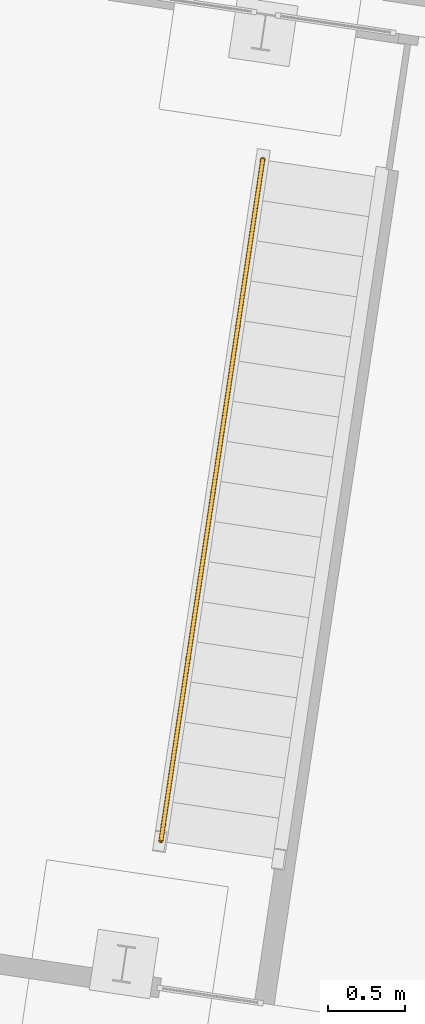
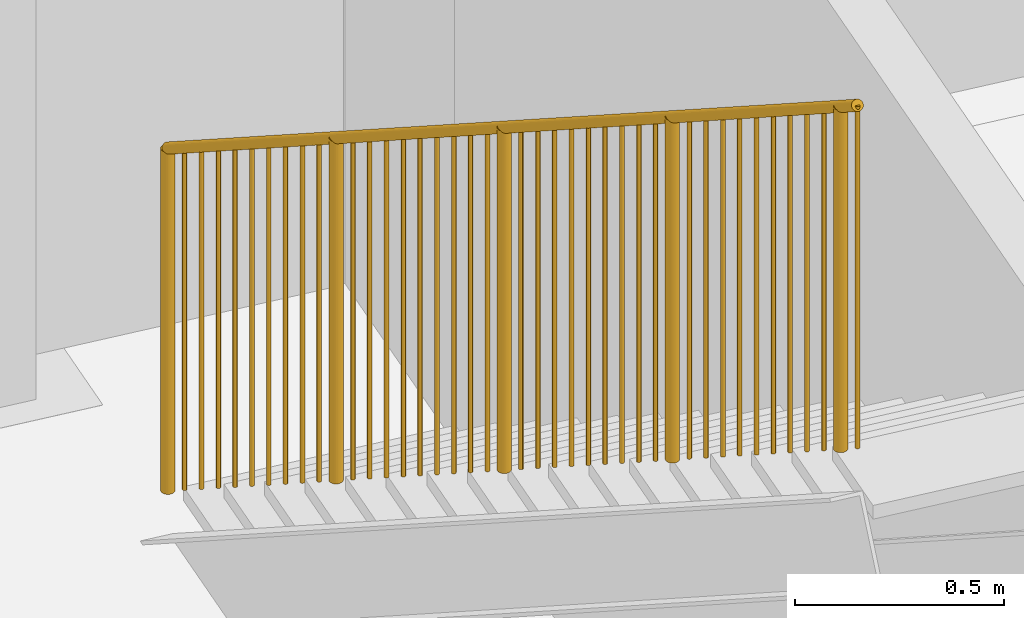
# One storey, part 135 of 142: 1 railing, 1 element without a shape of its own.
"""IFC4 building model written with IfcOpenShell, lengths in metres."""

from ifc_helpers import new_model, si_unit, direction, frame, origin_with_axes, place, context, subcontext, project, spatial, circle, extrude, material, element, aggregate, save


model = new_model("IFC4")

# Units and contexts
model_context = context("Model", 3, precision=1e-05, world=origin_with_axes(), true_north=direction((0.0, 1.0)))
body_context = subcontext(model_context, "Body", "Model", "MODEL_VIEW")
ifc_project = project(units=[si_unit("VOLUMEUNIT", "CUBIC_METRE"), si_unit("LENGTHUNIT", "METRE"), si_unit("AREAUNIT", "SQUARE_METRE")], contexts=[model_context])

# Site, building, storey
site_placement = place(None, origin_with_axes())
site = spatial("IfcSite", under=ifc_project, at=site_placement, Name="Lares · Rua das Mercês · artigo 4771")
building_placement = place(site_placement, frame((12.0, 10.2, 13.9), z_axis=(0.0, 0.0, 1.0), x_axis=(0.989015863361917, -0.147809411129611, 0.0)))
building = spatial("IfcBuilding", under=site, at=building_placement, Name="Casa Sobreposta")
storey_placement = place(building_placement, origin_with_axes())
storey = spatial("IfcBuildingStorey", under=building, at=storey_placement, Name="00 · Habitação e estacionamento", Elevation=13.9)

# Stair, railing
stair_placement = place(storey_placement, origin_with_axes())
stair = element("IfcStair", 1, at=stair_placement, inside=storey, Name="Escada garagem", PredefinedType="STRAIGHT_RUN_STAIR")
ifc_material = material(Name="Aço pintado / Stahl lackiert", Category="steel")
railing_placement = place(stair_placement, origin_with_axes())
railing = element("IfcRailing", 2, at=railing_placement, material=ifc_material, Name="Corrimão garagem", PredefinedType="GUARDRAIL", context=body_context, shape_type="SweptSolid", body=[
    extrude(circle(Radius=0.015), frame((24.12, 5.4525, 1.18), z_axis=(0.0, -0.827216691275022, 0.561883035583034), x_axis=(-1.0, 0.0, 0.0)), (0.0, 0.0, 1.0), 5.44597328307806),
    extrude(circle(Radius=0.0175), frame((24.12, 5.4525, 0.18), z_axis=(0.0, 0.0, 1.0), x_axis=(1.0, 0.0, 0.0)), (0.0, 0.0, 1.0), 1.0),
    extrude(circle(Radius=0.006), frame((24.12, 5.34262195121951, 0.254634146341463), z_axis=(0.0, 0.0, 1.0), x_axis=(1.0, 0.0, 0.0)), (0.0, 0.0, 1.0), 1.0),
    extrude(circle(Radius=0.006), frame((24.12, 5.23274390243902, 0.329268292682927), z_axis=(0.0, 0.0, 1.0), x_axis=(1.0, 0.0, 0.0)), (0.0, 0.0, 1.0), 1.0),
    extrude(circle(Radius=0.006), frame((24.12, 5.12286585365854, 0.40390243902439), z_axis=(0.0, 0.0, 1.0), x_axis=(1.0, 0.0, 0.0)), (0.0, 0.0, 1.0), 1.0),
    extrude(circle(Radius=0.006), frame((24.12, 5.01298780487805, 0.478536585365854), z_axis=(0.0, 0.0, 1.0), x_axis=(1.0, 0.0, 0.0)), (0.0, 0.0, 1.0), 1.0),
    extrude(circle(Radius=0.006), frame((24.12, 4.90310975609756, 0.553170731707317), z_axis=(0.0, 0.0, 1.0), x_axis=(1.0, 0.0, 0.0)), (0.0, 0.0, 1.0), 1.0),
    extrude(circle(Radius=0.006), frame((24.12, 4.79323170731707, 0.62780487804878), z_axis=(0.0, 0.0, 1.0), x_axis=(1.0, 0.0, 0.0)), (0.0, 0.0, 1.0), 1.0),
    extrude(circle(Radius=0.006), frame((24.12, 4.68335365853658, 0.702439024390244), z_axis=(0.0, 0.0, 1.0), x_axis=(1.0, 0.0, 0.0)), (0.0, 0.0, 1.0), 1.0),
    extrude(circle(Radius=0.006), frame((24.12, 4.5734756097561, 0.777073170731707), z_axis=(0.0, 0.0, 1.0), x_axis=(1.0, 0.0, 0.0)), (0.0, 0.0, 1.0), 1.0),
    extrude(circle(Radius=0.006), frame((24.12, 4.46359756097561, 0.851707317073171), z_axis=(0.0, 0.0, 1.0), x_axis=(1.0, 0.0, 0.0)), (0.0, 0.0, 1.0), 1.0),
    extrude(circle(Radius=0.0175), frame((24.12, 4.35371951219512, 0.926341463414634), z_axis=(0.0, 0.0, 1.0), x_axis=(1.0, 0.0, 0.0)), (0.0, 0.0, 1.0), 1.0),
    extrude(circle(Radius=0.006), frame((24.12, 4.24384146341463, 1.0009756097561), z_axis=(0.0, 0.0, 1.0), x_axis=(1.0, 0.0, 0.0)), (0.0, 0.0, 1.0), 1.0),
    extrude(circle(Radius=0.006), frame((24.12, 4.13396341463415, 1.07560975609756), z_axis=(0.0, 0.0, 1.0), x_axis=(1.0, 0.0, 0.0)), (0.0, 0.0, 1.0), 1.0),
    extrude(circle(Radius=0.006), frame((24.12, 4.02408536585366, 1.15024390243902), z_axis=(0.0, 0.0, 1.0), x_axis=(1.0, 0.0, 0.0)), (0.0, 0.0, 1.0), 1.0),
    extrude(circle(Radius=0.006), frame((24.12, 3.91420731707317, 1.22487804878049), z_axis=(0.0, 0.0, 1.0), x_axis=(1.0, 0.0, 0.0)), (0.0, 0.0, 1.0), 1.0),
    extrude(circle(Radius=0.006), frame((24.12, 3.80432926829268, 1.29951219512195), z_axis=(0.0, 0.0, 1.0), x_axis=(1.0, 0.0, 0.0)), (0.0, 0.0, 1.0), 1.0),
    extrude(circle(Radius=0.006), frame((24.12, 3.6944512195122, 1.37414634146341), z_axis=(0.0, 0.0, 1.0), x_axis=(1.0, 0.0, 0.0)), (0.0, 0.0, 1.0), 1.0),
    extrude(circle(Radius=0.006), frame((24.12, 3.58457317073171, 1.44878048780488), z_axis=(0.0, 0.0, 1.0), x_axis=(1.0, 0.0, 0.0)), (0.0, 0.0, 1.0), 1.0),
    extrude(circle(Radius=0.006), frame((24.12, 3.47469512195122, 1.52341463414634), z_axis=(0.0, 0.0, 1.0), x_axis=(1.0, 0.0, 0.0)), (0.0, 0.0, 1.0), 1.0),
    extrude(circle(Radius=0.006), frame((24.12, 3.36481707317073, 1.5980487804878), z_axis=(0.0, 0.0, 1.0), x_axis=(1.0, 0.0, 0.0)), (0.0, 0.0, 1.0), 1.0),
    extrude(circle(Radius=0.0175), frame((24.12, 3.25493902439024, 1.67268292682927), z_axis=(0.0, 0.0, 1.0), x_axis=(1.0, 0.0, 0.0)), (0.0, 0.0, 1.0), 1.0),
    extrude(circle(Radius=0.006), frame((24.12, 3.14506097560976, 1.74731707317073), z_axis=(0.0, 0.0, 1.0), x_axis=(1.0, 0.0, 0.0)), (0.0, 0.0, 1.0), 1.0),
    extrude(circle(Radius=0.006), frame((24.12, 3.03518292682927, 1.8219512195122), z_axis=(0.0, 0.0, 1.0), x_axis=(1.0, 0.0, 0.0)), (0.0, 0.0, 1.0), 1.0),
    extrude(circle(Radius=0.006), frame((24.12, 2.92530487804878, 1.89658536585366), z_axis=(0.0, 0.0, 1.0), x_axis=(1.0, 0.0, 0.0)), (0.0, 0.0, 1.0), 1.0),
    extrude(circle(Radius=0.006), frame((24.12, 2.81542682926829, 1.97121951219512), z_axis=(0.0, 0.0, 1.0), x_axis=(1.0, 0.0, 0.0)), (0.0, 0.0, 1.0), 1.0),
    extrude(circle(Radius=0.006), frame((24.12, 2.7055487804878, 2.04585365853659), z_axis=(0.0, 0.0, 1.0), x_axis=(1.0, 0.0, 0.0)), (0.0, 0.0, 1.0), 1.0),
    extrude(circle(Radius=0.006), frame((24.12, 2.59567073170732, 2.12048780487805), z_axis=(0.0, 0.0, 1.0), x_axis=(1.0, 0.0, 0.0)), (0.0, 0.0, 1.0), 1.0),
    extrude(circle(Radius=0.006), frame((24.12, 2.48579268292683, 2.19512195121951), z_axis=(0.0, 0.0, 1.0), x_axis=(1.0, 0.0, 0.0)), (0.0, 0.0, 1.0), 1.0),
    extrude(circle(Radius=0.006), frame((24.12, 2.37591463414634, 2.26975609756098), z_axis=(0.0, 0.0, 1.0), x_axis=(1.0, 0.0, 0.0)), (0.0, 0.0, 1.0), 1.0),
    extrude(circle(Radius=0.006), frame((24.12, 2.26603658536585, 2.34439024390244), z_axis=(0.0, 0.0, 1.0), x_axis=(1.0, 0.0, 0.0)), (0.0, 0.0, 1.0), 1.0),
    extrude(circle(Radius=0.0175), frame((24.12, 2.15615853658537, 2.4190243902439), z_axis=(0.0, 0.0, 1.0), x_axis=(1.0, 0.0, 0.0)), (0.0, 0.0, 1.0), 1.0),
    extrude(circle(Radius=0.006), frame((24.12, 2.04628048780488, 2.49365853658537), z_axis=(0.0, 0.0, 1.0), x_axis=(1.0, 0.0, 0.0)), (0.0, 0.0, 1.0), 1.0),
    extrude(circle(Radius=0.006), frame((24.12, 1.93640243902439, 2.56829268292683), z_axis=(0.0, 0.0, 1.0), x_axis=(1.0, 0.0, 0.0)), (0.0, 0.0, 1.0), 1.0),
    extrude(circle(Radius=0.006), frame((24.12, 1.8265243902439, 2.64292682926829), z_axis=(0.0, 0.0, 1.0), x_axis=(1.0, 0.0, 0.0)), (0.0, 0.0, 1.0), 1.0),
    extrude(circle(Radius=0.006), frame((24.12, 1.71664634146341, 2.71756097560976), z_axis=(0.0, 0.0, 1.0), x_axis=(1.0, 0.0, 0.0)), (0.0, 0.0, 1.0), 1.0),
    extrude(circle(Radius=0.006), frame((24.12, 1.60676829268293, 2.79219512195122), z_axis=(0.0, 0.0, 1.0), x_axis=(1.0, 0.0, 0.0)), (0.0, 0.0, 1.0), 1.0),
    extrude(circle(Radius=0.006), frame((24.12, 1.49689024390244, 2.86682926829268), z_axis=(0.0, 0.0, 1.0), x_axis=(1.0, 0.0, 0.0)), (0.0, 0.0, 1.0), 1.0),
    extrude(circle(Radius=0.006), frame((24.12, 1.38701219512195, 2.94146341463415), z_axis=(0.0, 0.0, 1.0), x_axis=(1.0, 0.0, 0.0)), (0.0, 0.0, 1.0), 1.0),
    extrude(circle(Radius=0.006), frame((24.12, 1.27713414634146, 3.01609756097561), z_axis=(0.0, 0.0, 1.0), x_axis=(1.0, 0.0, 0.0)), (0.0, 0.0, 1.0), 1.0),
    extrude(circle(Radius=0.006), frame((24.12, 1.16725609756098, 3.09073170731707), z_axis=(0.0, 0.0, 1.0), x_axis=(1.0, 0.0, 0.0)), (0.0, 0.0, 1.0), 1.0),
    extrude(circle(Radius=0.0175), frame((24.12, 1.05737804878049, 3.16536585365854), z_axis=(0.0, 0.0, 1.0), x_axis=(1.0, 0.0, 0.0)), (0.0, 0.0, 1.0), 1.0),
    extrude(circle(Radius=0.006), frame((24.12, 0.9475, 3.24), z_axis=(0.0, 0.0, 1.0), x_axis=(1.0, 0.0, 0.0)), (0.0, 0.0, 1.0), 1.0),
])
aggregate(stair, [railing])

save(model, "model.ifc")
